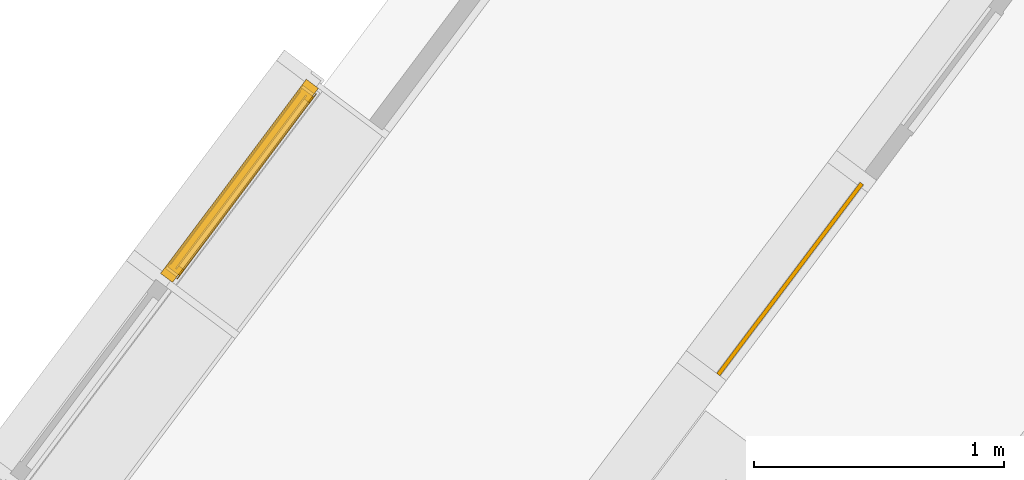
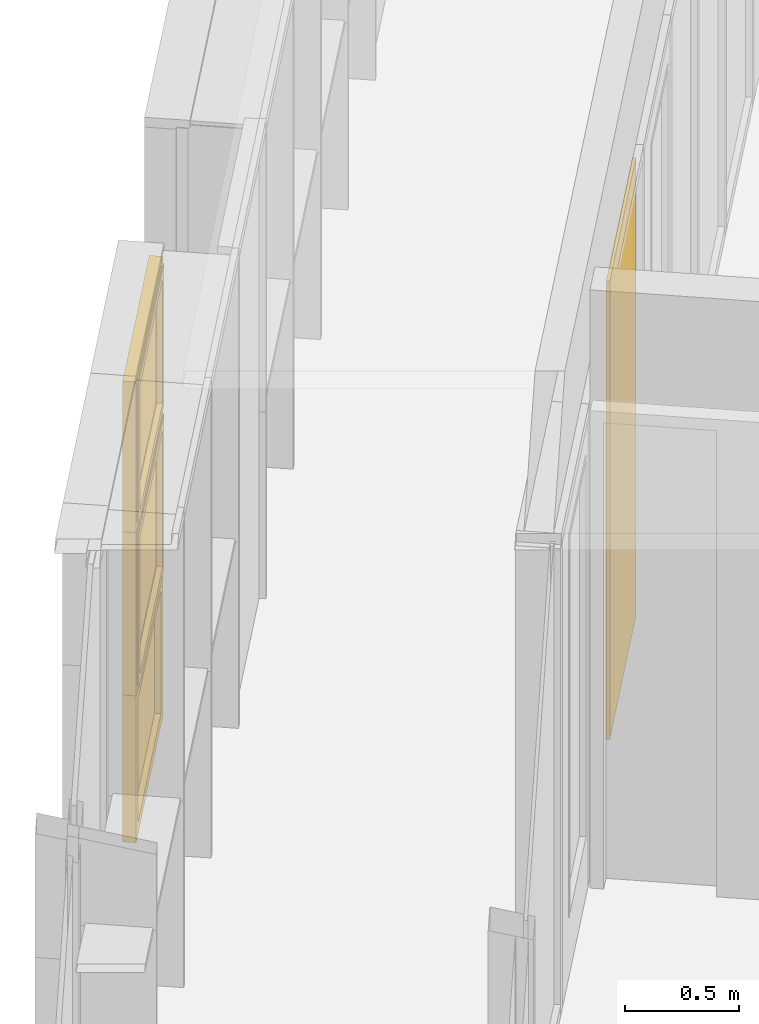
# One storey, part 180 of 243: 4 windows, 2 elements without a shape of their own.
"""IFC2X3 building model written with IfcOpenShell, lengths in metres."""

from ifc_helpers import new_model, entity, si_unit, converted_unit, derived_unit, direction, frame, origin, origin_2d_with_axis, place, context, subcontext, project, spatial, rectangle, extrude, faceted_brep, source, transform, mapped, material, material_list, type_object, type_shapes, element, aggregate, save


model = new_model("IFC2X3")

# Units and contexts
model_context = context("Model", 3, precision=1e-05, world=origin(), true_north=direction((6.123031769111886e-17, 1.0)))
body_context = subcontext(model_context, "Body", "Model", "MODEL_VIEW")
ifc_project = project(units=[si_unit("LENGTHUNIT", "METRE"), si_unit("AREAUNIT", "SQUARE_METRE"), si_unit("VOLUMEUNIT", "CUBIC_METRE"), converted_unit("PLANEANGLEUNIT", "DEGREE", entity("IfcRatioMeasure", 0.017453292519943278), si_unit("PLANEANGLEUNIT", "RADIAN"), dimensions=[0, 0, 0, 0, 0, 0, 0]), si_unit("MASSUNIT", "GRAM", prefix="KILO"), derived_unit("MASSDENSITYUNIT", [(si_unit("MASSUNIT", "GRAM", prefix="KILO"), 1), (si_unit("LENGTHUNIT", "METRE"), -3)]), derived_unit("IONCONCENTRATIONUNIT", [(si_unit("MASSUNIT", "GRAM", prefix="KILO"), 1), (si_unit("LENGTHUNIT", "METRE"), -3)]), derived_unit("MOMENTOFINERTIAUNIT", [(si_unit("LENGTHUNIT", "METRE"), 4)]), si_unit("TIMEUNIT", "SECOND"), si_unit("FREQUENCYUNIT", "HERTZ"), si_unit("THERMODYNAMICTEMPERATUREUNIT", "DEGREE_CELSIUS"), derived_unit("THERMALTRANSMITTANCEUNIT", [(si_unit("MASSUNIT", "GRAM", prefix="KILO"), 1), (si_unit("THERMODYNAMICTEMPERATUREUNIT", "KELVIN"), -1), (si_unit("TIMEUNIT", "SECOND"), -3)]), derived_unit("THERMALCONDUCTANCEUNIT", [(si_unit("MASSUNIT", "GRAM", prefix="KILO"), 1), (si_unit("THERMODYNAMICTEMPERATUREUNIT", "KELVIN"), -1), (si_unit("TIMEUNIT", "SECOND"), -3), (si_unit("LENGTHUNIT", "METRE"), 1)]), derived_unit("VOLUMETRICFLOWRATEUNIT", [(si_unit("LENGTHUNIT", "METRE"), 3), (si_unit("TIMEUNIT", "SECOND"), -1)]), derived_unit("MASSFLOWRATEUNIT", [(si_unit("MASSUNIT", "GRAM", prefix="KILO"), 1), (si_unit("TIMEUNIT", "SECOND"), -1)]), derived_unit("ROTATIONALFREQUENCYUNIT", [(si_unit("TIMEUNIT", "SECOND"), -1)]), si_unit("ELECTRICCURRENTUNIT", "AMPERE"), si_unit("ELECTRICVOLTAGEUNIT", "VOLT"), si_unit("POWERUNIT", "WATT"), si_unit("FORCEUNIT", "NEWTON", prefix="KILO"), si_unit("ILLUMINANCEUNIT", "LUX"), si_unit("LUMINOUSFLUXUNIT", "LUMEN"), si_unit("LUMINOUSINTENSITYUNIT", "CANDELA"), derived_unit("USERDEFINED", [(si_unit("MASSUNIT", "GRAM", prefix="KILO"), -1), (si_unit("LENGTHUNIT", "METRE"), -2), (si_unit("TIMEUNIT", "SECOND"), 3), (si_unit("LUMINOUSFLUXUNIT", "LUMEN"), 1)]), derived_unit("USERDEFINED", [(si_unit("MASSUNIT", "GRAM", prefix="KILO"), 1), (si_unit("TIMEUNIT", "SECOND"), -3), (si_unit("LENGTHUNIT", "METRE"), 3), (si_unit("ELECTRICCURRENTUNIT", "AMPERE"), -2)]), derived_unit("SOUNDPOWERUNIT", [(si_unit("MASSUNIT", "GRAM", prefix="KILO"), 1), (si_unit("TIMEUNIT", "SECOND"), -3), (si_unit("LENGTHUNIT", "METRE"), 2)]), derived_unit("SOUNDPRESSUREUNIT", [(si_unit("MASSUNIT", "GRAM", prefix="KILO"), 1), (si_unit("LENGTHUNIT", "METRE"), -1), (si_unit("TIMEUNIT", "SECOND"), -2)]), derived_unit("LINEARVELOCITYUNIT", [(si_unit("LENGTHUNIT", "METRE"), 1), (si_unit("TIMEUNIT", "SECOND"), -1)]), si_unit("PRESSUREUNIT", "PASCAL"), derived_unit("USERDEFINED", [(si_unit("MASSUNIT", "GRAM", prefix="KILO"), 1), (si_unit("LENGTHUNIT", "METRE"), -2), (si_unit("TIMEUNIT", "SECOND"), -2)]), derived_unit("LINEARFORCEUNIT", [(si_unit("MASSUNIT", "GRAM", prefix="KILO"), 1), (si_unit("TIMEUNIT", "SECOND"), -2)]), derived_unit("PLANARFORCEUNIT", [(si_unit("MASSUNIT", "GRAM", prefix="KILO"), 1), (si_unit("LENGTHUNIT", "METRE"), -1), (si_unit("TIMEUNIT", "SECOND"), -2)]), derived_unit("SPECIFICHEATCAPACITYUNIT", [(si_unit("THERMODYNAMICTEMPERATUREUNIT", "KELVIN"), -1), (si_unit("LENGTHUNIT", "METRE"), 2), (si_unit("TIMEUNIT", "SECOND"), -2)]), derived_unit("HEATINGVALUEUNIT", [(si_unit("LENGTHUNIT", "METRE"), 2), (si_unit("TIMEUNIT", "SECOND"), -2)]), derived_unit("VAPORPERMEABILITYUNIT", [(si_unit("LENGTHUNIT", "METRE"), -1), (si_unit("TIMEUNIT", "SECOND"), 1)]), derived_unit("DYNAMICVISCOSITYUNIT", [(si_unit("MASSUNIT", "GRAM", prefix="KILO"), 1), (si_unit("TIMEUNIT", "SECOND"), -1), (si_unit("LENGTHUNIT", "METRE"), -1)]), derived_unit("THERMALEXPANSIONCOEFFICIENTUNIT", [(si_unit("THERMODYNAMICTEMPERATUREUNIT", "KELVIN"), -1)]), derived_unit("MODULUSOFELASTICITYUNIT", [(si_unit("MASSUNIT", "GRAM", prefix="KILO"), 1), (si_unit("LENGTHUNIT", "METRE"), -1), (si_unit("TIMEUNIT", "SECOND"), -2)]), derived_unit("ISOTHERMALMOISTURECAPACITYUNIT", [(si_unit("LENGTHUNIT", "METRE"), 3), (si_unit("MASSUNIT", "GRAM", prefix="KILO"), -1)]), derived_unit("MOISTUREDIFFUSIVITYUNIT", [(si_unit("TIMEUNIT", "SECOND"), -1), (si_unit("LENGTHUNIT", "METRE"), 2)])], contexts=[model_context])

# Site, building, storey
site_placement = place(None, frame((0.0, 0.0, 235.0), z_axis=(0.0, 0.0, 1.0), x_axis=(-0.7996477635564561, 0.6004693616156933, 0.0)))
site = spatial("IfcSite", under=ifc_project, at=site_placement, Name="Default", CompositionType="ELEMENT")
building_placement = place(site_placement, origin())
building = spatial("IfcBuilding", under=site, at=building_placement, CompositionType="ELEMENT")
storey_placement = place(building_placement, origin())
storey = spatial("IfcBuildingStorey", under=building, at=storey_placement, Name="P0- Escola", CompositionType="ELEMENT", Elevation=0.0)

# Curtain wall, window
curtain_wall_type_1 = type_object("IfcCurtainWallType", Name="Muro cortina:MC- INT- a1", PredefinedType="NOTDEFINED")
curtain_wall_1_placement = place(storey_placement, origin())
curtain_wall_1 = element("IfcCurtainWall", 1, at=curtain_wall_1_placement, inside=storey, type_object=curtain_wall_type_1, Name="Muro cortina:MC- INT- a1", ObjectType="Muro cortina:MC- INT- a1")
ifc_material_1 = material(Name="_Vidre")
window_style_1 = type_object("IfcWindowStyle", Name="MC- Fusta- vidre fix:MC- Fusta- vidre fix", ConstructionType="NOTDEFINED", OperationType="NOTDEFINED", ParameterTakesPrecedence=False, Sizeable=False, material=ifc_material_1)
shared_shape_1 = source(origin(), body_context, "Body", "SweptSolid", [
    extrude(rectangle(XDim=0.9549999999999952, YDim=0.015999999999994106, at=origin_2d_with_axis()), frame((0.0, 0.0, 0.0), z_axis=(0.0, 0.0, 1.0), x_axis=(-1.0, 0.0, 0.0)), (0.0, 0.0, 1.0), 2.46),
])
type_shapes(window_style_1, [shared_shape_1])
window_1_placement = place(curtain_wall_1_placement, frame((72.720147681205, -24.922689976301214, 0.045000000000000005), z_axis=(0.0, 0.0, 1.0), x_axis=(0.0, -1.0, 0.0)))
window_1 = element("IfcWindow", 2, at=window_1_placement, type_object=window_style_1, material=ifc_material_1, Name="MC- Fusta- vidre fix:MC- Fusta- vidre fix", ObjectType="MC- Fusta- vidre fix:MC- Fusta- vidre fix", OverallHeight=2.46, OverallWidth=0.9549999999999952, context=body_context, shape_type="MappedRepresentation", body=[
    mapped(shared_shape_1, transform((0.0, 0.0, 0.0), scale=1.0)),
])
aggregate(curtain_wall_1, [window_1])

# Curtain wall, windows
curtain_wall_type_2 = type_object("IfcCurtainWallType", Name="Muro cortina:MC- EXT- MC5", PredefinedType="NOTDEFINED")
curtain_wall_2_placement = place(storey_placement, origin())
curtain_wall_2 = element("IfcCurtainWall", 3, at=curtain_wall_2_placement, inside=storey, type_object=curtain_wall_type_2, Name="Muro cortina:MC- EXT- MC5", ObjectType="Muro cortina:MC- EXT- MC5")
ifc_material_2 = material(Name="_Alumini- T1- Perfil")
ifc_material_list = material_list([ifc_material_1, ifc_material_2])
window_style_2 = type_object("IfcWindowStyle", Name="MC- Alu- Conjunt vidre fix- 62x60 cm:MC- Alu- Conjunt vidre fix- 62x60 cm", ConstructionType="NOTDEFINED", OperationType="NOTDEFINED", ParameterTakesPrecedence=False, Sizeable=False, material=ifc_material_list)
shared_shape_2 = source(origin(), body_context, "Body", "Brep", [
    faceted_brep([(-0.43619328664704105, -0.007600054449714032, 0.048806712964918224), (0.43619328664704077, -0.007600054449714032, 0.048806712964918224), (0.43619328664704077, -0.03160022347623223, 0.048806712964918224), (-0.43619328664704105, -0.03160022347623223, 0.048806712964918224), (-0.43619328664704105, -0.007600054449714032, 0.7387000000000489), (0.43619328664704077, -0.007600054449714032, 0.7387000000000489), (0.43619328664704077, -0.03160022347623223, 0.7387000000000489), (-0.43619328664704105, -0.03160022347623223, 0.7387000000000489)], [[[0, 1, 2, 3]], [[4, 5, 1, 0]], [[5, 6, 2, 1]], [[6, 7, 3, 2]], [[7, 4, 0, 3]], [[4, 7, 6, 5]]]),
    faceted_brep([(-0.4849999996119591, -0.05999999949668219, 0.7877000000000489), (-0.4849999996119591, 0.0, 0.7877000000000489), (-0.4849999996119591, 0.0, 0.0), (-0.4849999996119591, -0.05999999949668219, 0.0), (-0.422193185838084, 0.0, 0.7248931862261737), (-0.4221931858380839, 0.0, 0.06280681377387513), (0.42219318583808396, 0.0, 0.06280681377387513), (0.42219318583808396, 0.0, 0.7248931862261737), (0.4849999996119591, 0.0, 0.7877000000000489), (0.4849999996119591, 0.0, 0.0), (0.4849999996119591, -0.05999999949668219, 0.0), (0.4849999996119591, -0.05999999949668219, 0.7877000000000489), (0.4221960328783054, -0.05999999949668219, 0.7248960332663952), (0.4221960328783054, -0.05999999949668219, 0.0628039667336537), (-0.4221960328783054, -0.05999999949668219, 0.0628039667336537), (-0.4221960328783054, -0.05999999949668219, 0.7248960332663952), (-0.4221960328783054, -0.03160022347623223, 0.7248960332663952), (-0.4221960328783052, -0.03160022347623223, 0.06280396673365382), (0.4221960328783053, -0.03160022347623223, 0.06280396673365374), (0.42219603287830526, -0.03160022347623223, 0.7248960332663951), (0.43619328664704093, -0.03160022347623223, 0.7388932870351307), (0.43619328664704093, -0.03160022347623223, 0.048806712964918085), (-0.43619328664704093, -0.03160022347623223, 0.04880671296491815), (-0.43619328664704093, -0.03160022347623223, 0.7388932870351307), (-0.43619328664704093, -0.007600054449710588, 0.7388932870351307), (-0.43619328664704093, -0.007600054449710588, 0.04880671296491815), (0.43619328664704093, -0.007600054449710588, 0.048806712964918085), (0.43619328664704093, -0.007600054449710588, 0.7388932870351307), (0.42219318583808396, -0.007600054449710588, 0.7248931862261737), (0.42219318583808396, -0.007600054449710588, 0.06280681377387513), (-0.42219318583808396, -0.007600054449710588, 0.06280681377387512), (-0.42219318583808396, -0.007600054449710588, 0.7248931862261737)], [[[0, 1, 2, 3]], [[4, 5, 6, 7], [8, 9, 2, 1]], [[3, 2, 9, 10]], [[0, 3, 10, 11], [12, 13, 14, 15]], [[16, 15, 14, 17]], [[17, 14, 13, 18]], [[16, 17, 18, 19], [20, 21, 22, 23]], [[24, 23, 22, 25]], [[25, 22, 21, 26]], [[24, 25, 26, 27], [28, 29, 30, 31]], [[4, 31, 30, 5]], [[5, 30, 29, 6]], [[10, 9, 8, 11]], [[18, 13, 12, 19]], [[26, 21, 20, 27]], [[6, 29, 28, 7]], [[11, 8, 1, 0]], [[19, 12, 15, 16]], [[27, 20, 23, 24]], [[7, 28, 31, 4]]], outer=[[True], [False, True], [True], [True, False], [True], [True], [False, True], [True], [True], [True, False], [True], [True], [True], [True], [True], [True], [True], [True], [True], [True]]),
])
type_shapes(window_style_2, [shared_shape_2])
window_2_placement = place(curtain_wall_2_placement, frame((74.7451476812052, -23.915191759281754, 0.03229999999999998), z_axis=(0.0, 0.0, 1.0), x_axis=(0.0, -1.0, 0.0)))
window_2 = element("IfcWindow", 4, at=window_2_placement, type_object=window_style_2, material=ifc_material_list, Name="MC- Alu- Conjunt vidre fix- 62x60 cm:MC- Alu- Conjunt vidre fix- 62x60 cm", ObjectType="MC- Alu- Conjunt vidre fix- 62x60 cm:MC- Alu- Conjunt vidre fix- 62x60 cm", OverallHeight=0.7877000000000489, OverallWidth=0.9699999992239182, context=body_context, shape_type="MappedRepresentation", body=[
    mapped(shared_shape_2, transform((0.0, 0.0, 0.0), scale=1.0)),
])
window_style_3 = type_object("IfcWindowStyle", Name="MC- Alu- Conjunt finestra basculant- 68x68 cm:MC- Alu- Conjunt finestra basculant- 68x68 cm", ConstructionType="NOTDEFINED", OperationType="NOTDEFINED", ParameterTakesPrecedence=False, Sizeable=False, material=ifc_material_list)
shared_shape_3 = source(origin(), body_context, "Body", "Brep", [
    faceted_brep([(-0.43291170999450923, -0.03559830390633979, 0.051999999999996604), (-0.43291170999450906, -0.011598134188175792, 0.051999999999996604), (0.43291170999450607, -0.011598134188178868, 0.051999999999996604), (0.43291170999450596, -0.03559830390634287, 0.051999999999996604), (-0.43291170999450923, -0.03559830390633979, 0.8228027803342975), (-0.4329117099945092, -0.011598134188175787, 0.8228027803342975), (0.43291170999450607, -0.011598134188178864, 0.8228027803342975), (0.43291170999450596, -0.03559830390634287, 0.8228027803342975)], [[[0, 1, 2, 3]], [[4, 5, 1, 0]], [[5, 6, 2, 1]], [[6, 7, 3, 2]], [[7, 4, 0, 3]], [[4, 7, 6, 5]]]),
    faceted_brep([(0.4172108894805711, -0.009998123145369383, 0.8071019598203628), (0.4172108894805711, -0.007998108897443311, 0.8071019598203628), (0.4172108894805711, -0.007998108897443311, 0.06789804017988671), (0.4172108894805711, -0.009998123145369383, 0.06789804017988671), (0.44610892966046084, -0.007998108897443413, 0.8360000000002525), (0.44610892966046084, -0.007998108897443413, 0.03899999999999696), (-0.44610892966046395, -0.007998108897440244, 0.03899999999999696), (-0.44610892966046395, -0.007998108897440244, 0.8360000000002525), (-0.4172108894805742, -0.007998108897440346, 0.8071019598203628), (-0.4172108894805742, -0.007998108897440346, 0.06789804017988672), (-0.4172108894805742, -0.009998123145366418, 0.06789804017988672), (-0.4172108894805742, -0.009998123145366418, 0.8071019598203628), (-0.4329117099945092, -0.00999812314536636, 0.8228027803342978), (-0.4329117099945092, -0.009998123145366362, 0.05219721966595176), (0.43291170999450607, -0.009998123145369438, 0.052197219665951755), (0.43291170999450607, -0.009998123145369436, 0.8228027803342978), (0.4329117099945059, -0.04079986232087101, 0.8228027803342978), (0.4329117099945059, -0.04079986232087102, 0.052197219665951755), (-0.4329117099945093, -0.04079986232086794, 0.05219721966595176), (-0.4329117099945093, -0.04079986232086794, 0.8228027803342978), (-0.41721088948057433, -0.040799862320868, 0.8071019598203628), (-0.41721088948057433, -0.040799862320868, 0.06789804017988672), (0.41721088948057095, -0.04079986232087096, 0.06789804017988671), (0.41721088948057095, -0.04079986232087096, 0.8071019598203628), (0.41721088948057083, -0.06800005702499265, 0.8071019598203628), (0.4172108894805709, -0.06800005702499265, 0.06789804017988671), (-0.4172108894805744, -0.0680000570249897, 0.06789804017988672), (-0.4172108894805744, -0.0680000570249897, 0.8071019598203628), (-0.4636128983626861, -0.06800005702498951, 0.8535039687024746), (-0.4636128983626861, -0.06800005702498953, 0.021496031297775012), (0.4636128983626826, -0.06800005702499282, 0.021496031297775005), (0.4636128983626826, -0.06800005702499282, 0.8535039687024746), (0.4636128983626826, -0.0645000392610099, 0.8535039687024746), (0.4636128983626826, -0.0645000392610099, 0.021496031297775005), (-0.4636128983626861, -0.06450003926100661, 0.021496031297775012), (-0.4636128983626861, -0.06450003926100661, 0.8535039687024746), (-0.44610892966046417, -0.06450003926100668, 0.8360000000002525), (-0.44610892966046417, -0.06450003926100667, 0.03899999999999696), (0.4461089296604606, -0.06450003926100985, 0.038999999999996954), (0.4461089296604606, -0.06450003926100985, 0.8360000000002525)], [[[0, 1, 2, 3]], [[4, 5, 6, 7], [8, 9, 2, 1]], [[3, 2, 9, 10]], [[0, 3, 10, 11], [12, 13, 14, 15]], [[16, 15, 14, 17]], [[17, 14, 13, 18]], [[16, 17, 18, 19], [20, 21, 22, 23]], [[24, 23, 22, 25]], [[25, 22, 21, 26]], [[24, 25, 26, 27], [28, 29, 30, 31]], [[32, 31, 30, 33]], [[33, 30, 29, 34]], [[32, 33, 34, 35], [36, 37, 38, 39]], [[4, 39, 38, 5]], [[5, 38, 37, 6]], [[10, 9, 8, 11]], [[18, 13, 12, 19]], [[26, 21, 20, 27]], [[34, 29, 28, 35]], [[6, 37, 36, 7]], [[11, 8, 1, 0]], [[19, 12, 15, 16]], [[27, 20, 23, 24]], [[35, 28, 31, 32]], [[7, 36, 39, 4]]], outer=[[True], [True, False], [True], [False, True], [True], [True], [True, False], [True], [True], [False, True], [True], [True], [True, False], [True], [True], [True], [True], [True], [True], [True], [True], [True], [True], [True], [True]]),
    faceted_brep([(-0.42219318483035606, 0.0, 0.8121931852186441), (-0.42219318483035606, -0.0040000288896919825, 0.8121931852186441), (-0.422193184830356, -0.0040000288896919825, 0.06280681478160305), (-0.42219318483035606, 0.0, 0.06280681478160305), (-0.4575998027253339, -0.0040000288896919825, 0.847599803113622), (-0.4575998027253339, -0.0040000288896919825, 0.027400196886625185), (0.4575998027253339, -0.0040000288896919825, 0.027400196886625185), (0.4575998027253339, -0.0040000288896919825, 0.847599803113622), (0.422193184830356, -0.0040000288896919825, 0.812193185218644), (0.42219318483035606, -0.0040000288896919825, 0.06280681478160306), (0.42219318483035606, 0.0, 0.06280681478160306), (0.42219318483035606, 0.0, 0.8121931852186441), (0.4849999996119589, 0.0, 0.8750000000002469), (0.48499999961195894, 0.0, 0.0), (-0.4849999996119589, 0.0, 0.0), (-0.48499999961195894, 0.0, 0.8750000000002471), (-0.48499999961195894, -0.05999999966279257, 0.8750000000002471), (-0.48499999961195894, -0.05999999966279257, 0.0), (0.48499999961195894, -0.05999999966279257, 0.0), (0.48499999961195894, -0.05999999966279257, 0.8750000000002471), (0.45759980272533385, -0.05999999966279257, 0.8475998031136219), (0.4575998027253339, -0.05999999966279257, 0.027400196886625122), (-0.45759980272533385, -0.05999999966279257, 0.027400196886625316), (-0.4575998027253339, -0.05999999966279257, 0.847599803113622)], [[[0, 1, 2, 3]], [[4, 5, 6, 7], [8, 9, 2, 1]], [[3, 2, 9, 10]], [[0, 3, 10, 11], [12, 13, 14, 15]], [[16, 15, 14, 17]], [[17, 14, 13, 18]], [[16, 17, 18, 19], [20, 21, 22, 23]], [[4, 23, 22, 5]], [[5, 22, 21, 6]], [[10, 9, 8, 11]], [[18, 13, 12, 19]], [[6, 21, 20, 7]], [[11, 8, 1, 0]], [[19, 12, 15, 16]], [[7, 20, 23, 4]]], outer=[[True], [True, False], [True], [False, True], [True], [True], [True, False], [True], [True], [True], [True], [True], [True], [True], [True]]),
])
type_shapes(window_style_3, [shared_shape_3])
window_3_placement = place(curtain_wall_2_placement, frame((74.7451476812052, -23.915191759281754, 0.8200000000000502), z_axis=(0.0, 0.0, 1.0), x_axis=(0.0, -1.0, 0.0)))
window_3 = element("IfcWindow", 5, at=window_3_placement, type_object=window_style_3, material=ifc_material_list, Name="MC- Alu- Conjunt finestra basculant- 68x68 cm:MC- Alu- Conjunt finestra basculant- 68x68 cm", ObjectType="MC- Alu- Conjunt finestra basculant- 68x68 cm:MC- Alu- Conjunt finestra basculant- 68x68 cm", OverallHeight=0.8750000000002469, OverallWidth=0.9699999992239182, context=body_context, shape_type="MappedRepresentation", body=[
    mapped(shared_shape_3, transform((0.0, 0.0, 0.0), scale=1.0)),
])
window_style_4 = type_object("IfcWindowStyle", Name="MC- Alu- Conjunt finestra basculant- 68x68 cm:MC- Alu- Conjunt finestra basculant- 68x68 cm", ConstructionType="NOTDEFINED", OperationType="NOTDEFINED", ParameterTakesPrecedence=False, Sizeable=False, material=ifc_material_list)
shared_shape_4 = source(origin(), body_context, "Body", "Brep", [
    faceted_brep([(-0.43291170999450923, -0.03559830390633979, 0.051999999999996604), (-0.43291170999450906, -0.011598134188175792, 0.051999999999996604), (0.43291170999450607, -0.011598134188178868, 0.051999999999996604), (0.43291170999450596, -0.03559830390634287, 0.051999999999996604), (-0.43291170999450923, -0.03559830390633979, 0.7565527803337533), (-0.4329117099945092, -0.011598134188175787, 0.7565527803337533), (0.43291170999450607, -0.011598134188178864, 0.7565527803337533), (0.43291170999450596, -0.03559830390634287, 0.7565527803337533)], [[[0, 1, 2, 3]], [[4, 5, 1, 0]], [[5, 6, 2, 1]], [[6, 7, 3, 2]], [[7, 4, 0, 3]], [[4, 7, 6, 5]]]),
    faceted_brep([(0.4172108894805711, -0.009998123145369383, 0.7408519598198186), (0.4172108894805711, -0.007998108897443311, 0.7408519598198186), (0.4172108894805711, -0.007998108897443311, 0.06789804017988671), (0.4172108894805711, -0.009998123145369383, 0.06789804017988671), (0.44610892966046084, -0.007998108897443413, 0.7697499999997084), (0.44610892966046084, -0.007998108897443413, 0.03899999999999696), (-0.44610892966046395, -0.007998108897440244, 0.03899999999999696), (-0.44610892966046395, -0.007998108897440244, 0.7697499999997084), (-0.4172108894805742, -0.007998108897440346, 0.7408519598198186), (-0.4172108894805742, -0.007998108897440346, 0.06789804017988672), (-0.4172108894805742, -0.009998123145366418, 0.06789804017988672), (-0.4172108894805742, -0.009998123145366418, 0.7408519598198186), (-0.4329117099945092, -0.00999812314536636, 0.7565527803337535), (-0.4329117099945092, -0.009998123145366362, 0.05219721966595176), (0.43291170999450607, -0.009998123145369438, 0.052197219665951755), (0.43291170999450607, -0.009998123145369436, 0.7565527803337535), (0.4329117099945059, -0.04079986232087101, 0.7565527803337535), (0.4329117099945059, -0.04079986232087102, 0.052197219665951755), (-0.4329117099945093, -0.04079986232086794, 0.05219721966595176), (-0.4329117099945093, -0.04079986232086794, 0.7565527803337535), (-0.41721088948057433, -0.040799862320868, 0.7408519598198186), (-0.41721088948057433, -0.040799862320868, 0.06789804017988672), (0.41721088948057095, -0.04079986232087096, 0.06789804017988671), (0.41721088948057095, -0.04079986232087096, 0.7408519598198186), (0.41721088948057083, -0.06800005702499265, 0.7408519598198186), (0.4172108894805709, -0.06800005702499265, 0.06789804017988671), (-0.4172108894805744, -0.0680000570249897, 0.06789804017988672), (-0.4172108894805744, -0.0680000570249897, 0.7408519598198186), (-0.4636128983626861, -0.06800005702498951, 0.7872539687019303), (-0.4636128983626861, -0.06800005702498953, 0.021496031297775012), (0.4636128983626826, -0.06800005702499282, 0.021496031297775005), (0.4636128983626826, -0.06800005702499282, 0.7872539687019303), (0.4636128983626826, -0.0645000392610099, 0.7872539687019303), (0.4636128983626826, -0.0645000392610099, 0.021496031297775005), (-0.4636128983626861, -0.06450003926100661, 0.021496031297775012), (-0.4636128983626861, -0.06450003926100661, 0.7872539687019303), (-0.44610892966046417, -0.06450003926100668, 0.7697499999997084), (-0.44610892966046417, -0.06450003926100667, 0.03899999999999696), (0.4461089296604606, -0.06450003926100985, 0.038999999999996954), (0.4461089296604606, -0.06450003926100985, 0.7697499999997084)], [[[0, 1, 2, 3]], [[4, 5, 6, 7], [8, 9, 2, 1]], [[3, 2, 9, 10]], [[0, 3, 10, 11], [12, 13, 14, 15]], [[16, 15, 14, 17]], [[17, 14, 13, 18]], [[16, 17, 18, 19], [20, 21, 22, 23]], [[24, 23, 22, 25]], [[25, 22, 21, 26]], [[24, 25, 26, 27], [28, 29, 30, 31]], [[32, 31, 30, 33]], [[33, 30, 29, 34]], [[32, 33, 34, 35], [36, 37, 38, 39]], [[4, 39, 38, 5]], [[5, 38, 37, 6]], [[10, 9, 8, 11]], [[18, 13, 12, 19]], [[26, 21, 20, 27]], [[34, 29, 28, 35]], [[6, 37, 36, 7]], [[11, 8, 1, 0]], [[19, 12, 15, 16]], [[27, 20, 23, 24]], [[35, 28, 31, 32]], [[7, 36, 39, 4]]], outer=[[True], [True, False], [True], [False, True], [True], [True], [True, False], [True], [True], [False, True], [True], [True], [True, False], [True], [True], [True], [True], [True], [True], [True], [True], [True], [True], [True], [True]]),
    faceted_brep([(-0.42219318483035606, 0.0, 0.7459431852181), (-0.42219318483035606, -0.0040000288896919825, 0.7459431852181), (-0.422193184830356, -0.0040000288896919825, 0.06280681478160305), (-0.42219318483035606, 0.0, 0.06280681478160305), (-0.4575998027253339, -0.0040000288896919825, 0.7813498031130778), (-0.4575998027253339, -0.0040000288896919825, 0.027400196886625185), (0.4575998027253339, -0.0040000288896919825, 0.027400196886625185), (0.4575998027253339, -0.0040000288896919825, 0.7813498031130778), (0.422193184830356, -0.0040000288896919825, 0.7459431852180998), (0.42219318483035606, -0.0040000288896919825, 0.06280681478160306), (0.42219318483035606, 0.0, 0.06280681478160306), (0.42219318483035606, 0.0, 0.7459431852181), (0.48499999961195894, 0.0, 0.8087499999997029), (0.48499999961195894, 0.0, 0.0), (-0.48499999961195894, 0.0, 0.0), (-0.48499999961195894, 0.0, 0.8087499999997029), (-0.48499999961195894, -0.05999999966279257, 0.8087499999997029), (-0.48499999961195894, -0.05999999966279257, 0.0), (0.48499999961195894, -0.05999999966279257, 0.0), (0.48499999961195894, -0.05999999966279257, 0.8087499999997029), (0.4575998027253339, -0.05999999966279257, 0.7813498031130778), (0.4575998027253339, -0.05999999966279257, 0.027400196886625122), (-0.4575998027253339, -0.05999999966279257, 0.02740019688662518), (-0.4575998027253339, -0.05999999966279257, 0.7813498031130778)], [[[0, 1, 2, 3]], [[4, 5, 6, 7], [8, 9, 2, 1]], [[3, 2, 9, 10]], [[0, 3, 10, 11], [12, 13, 14, 15]], [[16, 15, 14, 17]], [[17, 14, 13, 18]], [[16, 17, 18, 19], [20, 21, 22, 23]], [[4, 23, 22, 5]], [[5, 22, 21, 6]], [[10, 9, 8, 11]], [[18, 13, 12, 19]], [[6, 21, 20, 7]], [[11, 8, 1, 0]], [[19, 12, 15, 16]], [[7, 20, 23, 4]]], outer=[[True], [True, False], [True], [False, True], [True], [True], [True, False], [True], [True], [True], [True], [True], [True], [True], [True]]),
])
type_shapes(window_style_4, [shared_shape_4])
window_4_placement = place(curtain_wall_2_placement, frame((74.7451476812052, -23.9151917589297, 1.6950000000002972), z_axis=(0.0, 0.0, 1.0), x_axis=(0.0, -1.0, 0.0)))
window_4 = element("IfcWindow", 6, at=window_4_placement, type_object=window_style_4, material=ifc_material_list, Name="MC- Alu- Conjunt finestra basculant- 68x68 cm:MC- Alu- Conjunt finestra basculant- 68x68 cm", ObjectType="MC- Alu- Conjunt finestra basculant- 68x68 cm:MC- Alu- Conjunt finestra basculant- 68x68 cm", OverallHeight=0.8087499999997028, OverallWidth=0.9699999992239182, context=body_context, shape_type="MappedRepresentation", body=[
    mapped(shared_shape_4, transform((0.0, 0.0, 0.0), scale=1.0)),
])
aggregate(curtain_wall_2, [window_2, window_3, window_4])

save(model, "model.ifc")
